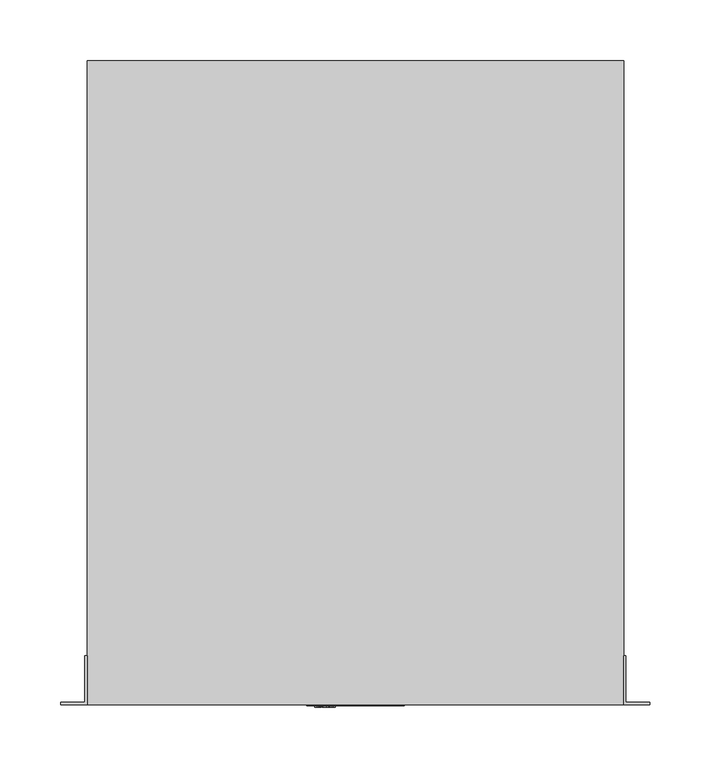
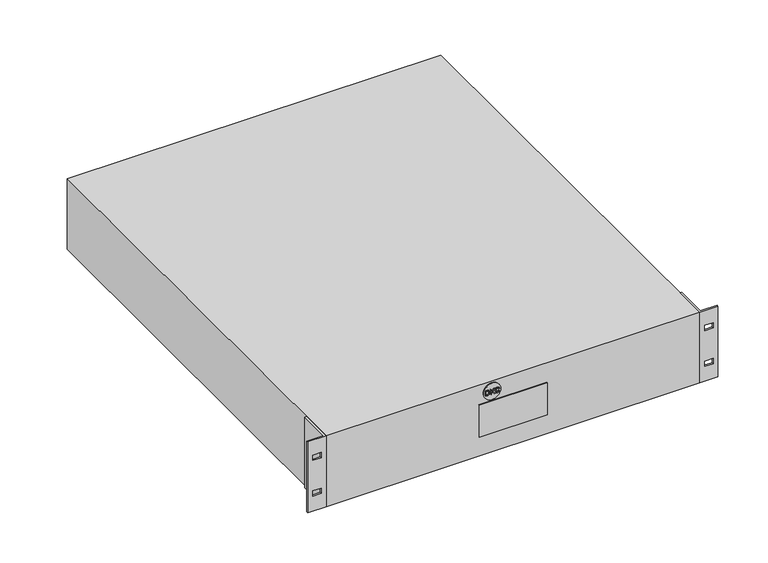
"""IFC4 building model written with IfcOpenShell, lengths in millimetres: proxy geometry, НВО_КНС_ОнлайнИБПSmallRackmount_DKC : 2000 ВА."""

import ifcopenshell
import ifcopenshell.guid

model = None  # the IFC model being written
_history = None  # IfcOwnerHistory: only IFC2X3 demands one
_inside = {}  # id of a spatial element -> (the spatial element, [elements in it])
_under = {}  # id of a project, library or spatial element -> (it, [spatial elements below it])
_declared = {}  # id of a project -> (the project, [libraries it declares])
_typed = {}  # id of a type object -> (the type object, [elements of that type])
_made_of = {}  # id of a material, layer set ... -> (it, [elements and type objects made of it])


def new_model(schema):
    """Start an empty IFC model of exactly this schema.

    Asked for "IFC4X3", IfcOpenShell would pick the latest addendum, in which some entities
    have other attributes; the version numbers below select the first issue.
    IFC2X3 requires an IfcOwnerHistory on every rooted entity: one is made here for all.
    """
    global model, _history
    if schema == "IFC4X3":
        model = ifcopenshell.file(schema_version=(4, 3, 0, 0))
    else:
        model = ifcopenshell.file(schema=schema)
    _inside.clear()
    _under.clear()
    _declared.clear()
    _typed.clear()
    _made_of.clear()
    _history = None
    if model.schema == "IFC2X3":
        org = make("IfcOrganization", Name="unknown")
        user = make(
            "IfcPersonAndOrganization",
            ThePerson=make("IfcPerson", FamilyName="unknown"),
            TheOrganization=org,
        )
        app = make(
            "IfcApplication",
            ApplicationDeveloper=org,
            Version="unknown",
            ApplicationFullName="unknown",
            ApplicationIdentifier="unknown",
        )
        _history = make(
            "IfcOwnerHistory",
            OwningUser=user,
            OwningApplication=app,
            ChangeAction="ADDED",
            CreationDate=0,
        )
    return model


def make(cls, **values):
    """One entity of the class cls with the attributes given. An attribute that is None is left unset."""
    return model.create_entity(
        cls, **{name: value for name, value in values.items() if value is not None}
    )


def rooted(cls, **values):
    """An entity with a GlobalId (a new one), such as an element, a storey or a relation."""
    return make(cls, GlobalId=ifcopenshell.guid.new(), OwnerHistory=_history, **values)


def si_unit(unit_type, name, prefix=None):
    """IfcSIUnit, for example si_unit("LENGTHUNIT", "METRE", prefix="MILLI")."""
    return make("IfcSIUnit", UnitType=unit_type, Prefix=prefix, Name=name)


def assignment(units):
    """IfcUnitAssignment: the units of a project."""
    return None if units is None else make("IfcUnitAssignment", Units=units)


def point(xyz):
    """IfcCartesianPoint."""
    return None if xyz is None else make("IfcCartesianPoint", Coordinates=xyz)


def direction(xyz):
    """IfcDirection."""
    return None if xyz is None else make("IfcDirection", DirectionRatios=xyz)


def frame(location, z_axis=None, x_axis=None):
    """IfcAxis2Placement3D, a coordinate frame: its origin and axes. An axis left out is left unset."""
    return make(
        "IfcAxis2Placement3D",
        Location=point(location),
        Axis=direction(z_axis),
        RefDirection=direction(x_axis),
    )


def frame_2d(location, x_axis=None):
    """IfcAxis2Placement2D, a coordinate frame in the plane: its origin and x axis."""
    return make(
        "IfcAxis2Placement2D", Location=point(location), RefDirection=direction(x_axis)
    )


def origin():
    """The frame at (0, 0, 0) with its axes left unset."""
    return frame((0.0, 0.0, 0.0))


def origin_with_axes():
    """The frame at (0, 0, 0) with the z axis (0, 0, 1) and the x axis (1, 0, 0) written out."""
    return frame((0.0, 0.0, 0.0), z_axis=(0.0, 0.0, 1.0), x_axis=(1.0, 0.0, 0.0))


def place(relative_to, where):
    """IfcLocalPlacement: puts the frame where relative to a parent placement (None: the world)."""
    return make(
        "IfcLocalPlacement", PlacementRelTo=relative_to, RelativePlacement=where
    )


def context(
    kind, dimensions, precision=None, world=None, true_north=None, identifier=None
):
    """IfcGeometricRepresentationContext, for example the 3D "Model" context."""
    return make(
        "IfcGeometricRepresentationContext",
        ContextIdentifier=identifier,
        ContextType=kind,
        CoordinateSpaceDimension=dimensions,
        Precision=precision,
        WorldCoordinateSystem=world,
        TrueNorth=true_north,
    )


def project(units=None, contexts=None):
    """IfcProject with its units and contexts."""
    return rooted(
        "IfcProject",
        Name="project",
        RepresentationContexts=contexts,
        UnitsInContext=assignment(units),
    )


def spatial(cls, under=None, at=None, **own):
    """A site, building, storey or space (cls), placed at a placement, below another one or the project."""
    s = rooted(cls, ObjectPlacement=at, **own)
    if under is not None:
        _under.setdefault(under.id(), (under, []))[1].append(s)
    return s


def polyline(points):
    """IfcPolyline through the points."""
    return make("IfcPolyline", Points=[point(p) for p in points])


def circle_curve(where, radius):
    """IfcCircle in the frame where."""
    return make("IfcCircle", Position=where, Radius=radius)


def trimmed(basis, trim1, trim2, sense, master):
    """IfcTrimmedCurve: the piece of a basis curve between two trims."""
    return make(
        "IfcTrimmedCurve",
        BasisCurve=basis,
        Trim1=trim1,
        Trim2=trim2,
        SenseAgreement=sense,
        MasterRepresentation=master,
    )


def segment(curve, same_sense, transition):
    """IfcCompositeCurveSegment."""
    return make(
        "IfcCompositeCurveSegment",
        Transition=transition,
        SameSense=same_sense,
        ParentCurve=curve,
    )


def composite_curve(segments, self_intersect=None):
    """IfcCompositeCurve: segments joined end to end."""
    return make("IfcCompositeCurve", Segments=segments, SelfIntersect=self_intersect)


def outline(outer, holes=None, kind="AREA"):
    """IfcArbitraryClosedProfileDef: a profile drawn as a closed curve; with holes, ...WithVoids."""
    if holes is None:
        return make("IfcArbitraryClosedProfileDef", ProfileType=kind, OuterCurve=outer)
    return make(
        "IfcArbitraryProfileDefWithVoids",
        ProfileType=kind,
        OuterCurve=outer,
        InnerCurves=holes,
    )


def extrude(swept, where, along, depth):
    """IfcExtrudedAreaSolid: the profile swept, set in the frame where, extruded along a direction by depth."""
    return make(
        "IfcExtrudedAreaSolid",
        SweptArea=swept,
        Position=where,
        ExtrudedDirection=direction(along),
        Depth=depth,
    )


def faces_of(points, faces, orient=None, outer=None):
    """IfcFace entities. A face is a list of loops; a loop is a list of indices into points, from 0.

    orient and outer hold one flag for each loop. By default every Orientation is true, the
    first loop of a face is its IfcFaceOuterBound and the others are IfcFaceBound.
    """
    made = []
    for i, loops in enumerate(faces):
        bounds = []
        for j, loop in enumerate(loops):
            is_outer = j == 0 if outer is None else outer[i][j]
            bounds.append(
                make(
                    "IfcFaceOuterBound" if is_outer else "IfcFaceBound",
                    Bound=make("IfcPolyLoop", Polygon=[points[k] for k in loop]),
                    Orientation=True if orient is None else orient[i][j],
                )
            )
        made.append(make("IfcFace", Bounds=bounds))
    return made


def faceted_brep(points, faces, orient=None, outer=None, voids=None):
    """IfcFacetedBrep: a solid bounded by flat faces; with voids (closed shells), ...WithVoids."""
    shared = [point(p) for p in points]
    hull = make("IfcClosedShell", CfsFaces=faces_of(shared, faces, orient, outer))
    if voids is None:
        return make("IfcFacetedBrep", Outer=hull)
    return make(
        "IfcFacetedBrepWithVoids",
        Outer=hull,
        Voids=[
            make(cls, CfsFaces=faces_of(shared, fs, o, b)) for cls, fs, o, b in voids
        ],
    )


def shape(context_of_items, identifier, shape_type, items):
    """IfcShapeRepresentation: the items that make up one representation, for example the "Body"."""
    return make(
        "IfcShapeRepresentation",
        ContextOfItems=context_of_items,
        RepresentationIdentifier=identifier,
        RepresentationType=shape_type,
        Items=items,
    )


def source(mapping_origin, context_of_items, identifier, shape_type, items):
    """IfcRepresentationMap: a shape defined once, which mapped items show again and again."""
    return make(
        "IfcRepresentationMap",
        MappingOrigin=mapping_origin,
        MappedRepresentation=shape(context_of_items, identifier, shape_type, items),
    )


def transform(
    local_origin,
    x_axis=None,
    y_axis=None,
    z_axis=None,
    scale=None,
    scale2=None,
    scale3=None,
    uniform=True,
):
    """IfcCartesianTransformationOperator3D, or its non-uniform kind. x_axis, y_axis, z_axis: its Axis1, 2, 3."""
    if uniform:
        return make(
            "IfcCartesianTransformationOperator3D",
            Axis1=direction(x_axis),
            Axis2=direction(y_axis),
            LocalOrigin=point(local_origin),
            Scale=scale,
            Axis3=direction(z_axis),
        )
    return make(
        "IfcCartesianTransformationOperator3DnonUniform",
        Axis1=direction(x_axis),
        Axis2=direction(y_axis),
        LocalOrigin=point(local_origin),
        Scale=scale,
        Axis3=direction(z_axis),
        Scale2=scale2,
        Scale3=scale3,
    )


def mapped(mapping_source, mapping_target):
    """IfcMappedItem: shows the shape of a source again, moved by a transform."""
    return make(
        "IfcMappedItem", MappingSource=mapping_source, MappingTarget=mapping_target
    )


def made_of(thing, what):
    """Note that an element or type object is made of a material, layer set ...; save() writes the relation."""
    if what is not None:
        _made_of.setdefault(what.id(), (what, []))[1].append(thing)
    return thing


def element(
    cls,
    number,
    at=None,
    inside=None,
    cuts=None,
    type_object=None,
    material=None,
    context=None,
    identifier="Body",
    shape_type=None,
    held_by="IfcProductDefinitionShape",
    body=None,
    shapes=None,
    **own,
):
    """One element of the class cls, such as IfcWall. Its Tag is "e" and its number.

    at: its placement. inside: the storey or other place that contains it. cuts: it is an
    opening in that element (IfcRelVoidsElement). A single representation is given by context,
    identifier, shape_type and body (its items); several are given by shapes. held_by: the class
    of the entity that holds the representations. save() writes the other relations.
    """
    e = rooted(cls, Tag="e%d" % number, ObjectPlacement=at, **own)
    if body is not None:
        shapes = [shape(context, identifier, shape_type, body)]
    if shapes is not None:
        e.Representation = make(held_by, Representations=shapes)
    if inside is not None:
        _inside.setdefault(inside.id(), (inside, []))[1].append(e)
    if cuts is not None:
        rooted(
            "IfcRelVoidsElement", RelatingBuildingElement=cuts, RelatedOpeningElement=e
        )
    if type_object is not None:
        _typed.setdefault(type_object.id(), (type_object, []))[1].append(e)
    return made_of(e, material)


def aggregate(whole, parts):
    """IfcRelAggregates: a whole, such as a stair, and the parts it consists of."""
    return rooted("IfcRelAggregates", RelatingObject=whole, RelatedObjects=parts)


def save(model, path):
    """Write the relations noted so far, then the file.

    IfcRelAggregates (storeys below a building ...), IfcRelContainedInSpatialStructure (elements
    in a storey), IfcRelDefinesByType, IfcRelAssociatesMaterial and IfcRelDeclares: one each for
    every whole, place, type object, material and project.
    """
    for whole, parts in _under.values():
        aggregate(whole, parts)
    for where, things in _inside.values():
        rooted(
            "IfcRelContainedInSpatialStructure",
            RelatedElements=things,
            RelatingStructure=where,
        )
    for kind, things in _typed.values():
        rooted("IfcRelDefinesByType", RelatedObjects=things, RelatingType=kind)
    for what, things in _made_of.values():
        rooted("IfcRelAssociatesMaterial", RelatedObjects=things, RelatingMaterial=what)
    for by, libraries in _declared.values():
        rooted("IfcRelDeclares", RelatingContext=by, RelatedDefinitions=libraries)
    model.write(path)


def electrical_equipment_9999ad84(model_context):
    return source(origin(), model_context, "Body", "SolidModel", [
        extrude(outline(polyline([(73.0, -33.1463789), (73.0, -30.967046), (73.103007, -29.9980448), (73.9520786, -28.7273804), (74.829845, -28.3153525), (76.0460629, -28.154956), (77.4793312, -28.391872), (78.5094008, -29.1055631), (78.9405585, -29.9914229), (79.0273786, -31.0671099), (79.0273786, -33.1463789), (73.0, -33.1463789)]), holes=[polyline([(73.7534223, -32.3929566), (78.2739563, -32.3929566), (78.2739563, -31.0803536), (78.153291, -30.0120243), (77.4852173, -29.2299072), (76.0578351, -28.9083783), (74.9181367, -29.0724537), (73.8623154, -30.0900153), (73.7534223, -31.0597522), (73.7534223, -32.3929566)])]), frame((0.0, -2.0, 0.0), z_axis=(0.0, 1.0, 0.0), x_axis=(0.0, 0.0, 1.0)), (0.0, 0.0, 1.0), 6.0),
        extrude(outline(polyline([(73.0, -26.7422891), (75.0719114, -26.365578), (76.0401768, -25.3502237), (73.0, -23.0487539), (73.0, -22.1275774), (76.5493255, -24.816059), (79.0273786, -22.2217552), (79.0273786, -23.2753692), (76.076965, -26.365578), (79.0273786, -27.1190003), (73.0, -26.7422891)])), frame((0.0, -2.0, 0.0), z_axis=(0.0, 1.0, 0.0), x_axis=(0.0, 0.0, 1.0)), (0.0, 0.0, 1.0), 6.0),
        extrude(outline(polyline([(75.1425447, -17.3245101), (74.0330126, -17.963889), (73.6592445, -19.1168311), (73.9336845, -20.1564657), (74.7628905, -20.8642706), (76.0607782, -21.0916217), (77.180611, -20.8995873), (78.0458694, -20.2337209), (78.3681341, -19.055027), (78.0775073, -18.0367296), (77.3307068, -16.6652655), (78.652139, -17.5165445), (79.1215564, -19.0255964), (78.7588248, -20.4735799), (77.6971173, -21.4881985), (76.0593067, -21.845044), (74.4479835, -21.5294013), (73.3016632, -20.6096963), (72.9058222, -19.0417832), (73.4289504, -17.4643052), (75.1425447, -17.3245101)])), frame((0.0, -2.0, 0.0), z_axis=(0.0, 1.0, 0.0), x_axis=(0.0, 0.0, 1.0)), (0.0, 0.0, 1.0), 6.0),
        extrude(outline(composite_curve([segment(trimmed(circle_curve(frame_2d((76.0, -25.0)), 10.0), [point((76.0, -35.0))], [point((76.0, -15.0))], False, "CARTESIAN"), True, "CONTINUOUS"), segment(trimmed(circle_curve(frame_2d((76.0, -25.0)), 10.0), [point((76.0, -15.0))], [point((76.0, -35.0))], False, "CARTESIAN"), True, "CONTINUOUS")], self_intersect=False)), frame((0.0, -1.0, 0.0), z_axis=(0.0, 1.0, 0.0), x_axis=(0.0, 0.0, 1.0)), (0.0, 0.0, 1.0), 10.0),
        faceted_brep([(220.0, 0.0, 88.0), (241.5, 0.0, 88.0), (241.5, 2.0, 88.0), (222.0, 2.0, 88.0), (222.0, 40.0, 88.0), (220.0, 40.0, 88.0), (220.0, 0.0, 0.0), (220.0, 40.0, 0.0), (222.0, 40.0, 0.0), (222.0, 2.0, 0.0), (241.5, 2.0, 0.0), (241.5, 0.0, 0.0), (225.75, 0.0, 25.025), (235.75, 0.0, 25.025), (235.75, 0.0, 18.525), (225.75, 0.0, 18.525), (225.75, 0.0, 69.475), (235.75, 0.0, 69.475), (235.75, 0.0, 62.975), (225.75, 0.0, 62.975), (235.75, 2.0, 25.025), (225.75, 2.0, 25.025), (225.75, 2.0, 18.525), (235.75, 2.0, 18.525), (235.75, 2.0, 69.475), (225.75, 2.0, 69.475), (225.75, 2.0, 62.975), (235.75, 2.0, 62.975)], [[[0, 1, 2, 3, 4, 5]], [[6, 7, 8, 9, 10, 11]], [[1, 0, 6, 11], [12, 13, 14, 15], [16, 17, 18, 19]], [[2, 1, 11, 10]], [[3, 2, 10, 9], [20, 21, 22, 23], [24, 25, 26, 27]], [[4, 3, 9, 8]], [[5, 4, 8, 7]], [[0, 5, 7, 6]], [[16, 25, 24, 17]], [[25, 16, 19, 26]], [[26, 19, 18, 27]], [[17, 24, 27, 18]], [[12, 21, 20, 13]], [[21, 12, 15, 22]], [[22, 15, 14, 23]], [[13, 20, 23, 14]]]),
        faceted_brep([(-222.0, 2.0, 88.0), (-241.5, 2.0, 88.0), (-241.5, 0.0, 88.0), (-220.0, 0.0, 88.0), (-220.0, 40.0, 88.0), (-222.0, 40.0, 88.0), (-222.0, 2.0, 0.0), (-222.0, 40.0, 0.0), (-220.0, 40.0, 0.0), (-220.0, 0.0, 0.0), (-241.5, 0.0, 0.0), (-241.5, 2.0, 0.0), (-225.75, 2.0, 69.475), (-235.75, 2.0, 69.475), (-235.75, 2.0, 62.975), (-225.75, 2.0, 62.975), (-225.75, 2.0, 25.025), (-235.75, 2.0, 25.025), (-235.75, 2.0, 18.525), (-225.75, 2.0, 18.525), (-235.75, 0.0, 69.475), (-225.75, 0.0, 69.475), (-225.75, 0.0, 62.975), (-235.75, 0.0, 62.975), (-235.75, 0.0, 25.025), (-225.75, 0.0, 25.025), (-225.75, 0.0, 18.525), (-235.75, 0.0, 18.525)], [[[0, 1, 2, 3, 4, 5]], [[6, 7, 8, 9, 10, 11]], [[1, 0, 6, 11], [12, 13, 14, 15], [16, 17, 18, 19]], [[2, 1, 11, 10]], [[3, 2, 10, 9], [20, 21, 22, 23], [24, 25, 26, 27]], [[4, 3, 9, 8]], [[5, 4, 8, 7]], [[0, 5, 7, 6]], [[20, 13, 12, 21]], [[13, 20, 23, 14]], [[14, 23, 22, 15]], [[21, 12, 15, 22]], [[24, 17, 16, 25]], [[17, 24, 27, 18]], [[18, 27, 26, 19]], [[25, 16, 19, 26]]]),
        extrude(outline(polyline([(40.0, -1.0), (-40.0, -1.0), (-40.0, 0.0), (40.0, 0.0), (40.0, -1.0)])), frame((0.0, 0.0, 24.0), z_axis=(0.0, 0.0, 1.0), x_axis=(1.0, 0.0, 0.0)), (0.0, 0.0, 1.0), 40.0),
        extrude(outline(polyline([(220.0, 0.0), (-220.0, 0.0), (-220.0, 528.0), (220.0, 528.0), (220.0, 0.0)])), origin_with_axes(), (0.0, 0.0, 1.0), 88.0),
    ])


if __name__ == "__main__":
    model = new_model("IFC4")
    model_context = context("Model", 3, world=origin())
    ifc_project = project(units=[si_unit("LENGTHUNIT", "METRE", prefix="MILLI")], contexts=[model_context])
    site = spatial("IfcSite", under=ifc_project)
    building = spatial("IfcBuilding", under=site)
    placement = place(None, origin())
    electrical_equipment_shape = electrical_equipment_9999ad84(model_context)
    element("IfcBuildingElementProxy", 1, Name="НВО_КНС_ОнлайнИБПSmallRackmount_DKC : 2000 ВА", ObjectType="НВО_КНС_ОнлайнИБПSmallRackmount_DKC : 2000 ВА", at=placement, inside=building, context=model_context, shape_type="MappedRepresentation", body=[
        mapped(electrical_equipment_shape, transform((0.0, 0.0, 0.0), x_axis=(1.0, 0.0, 0.0), y_axis=(0.0, 1.0, 0.0), z_axis=(0.0, 0.0, 1.0))),
    ])
    save(model, "model.ifc")
